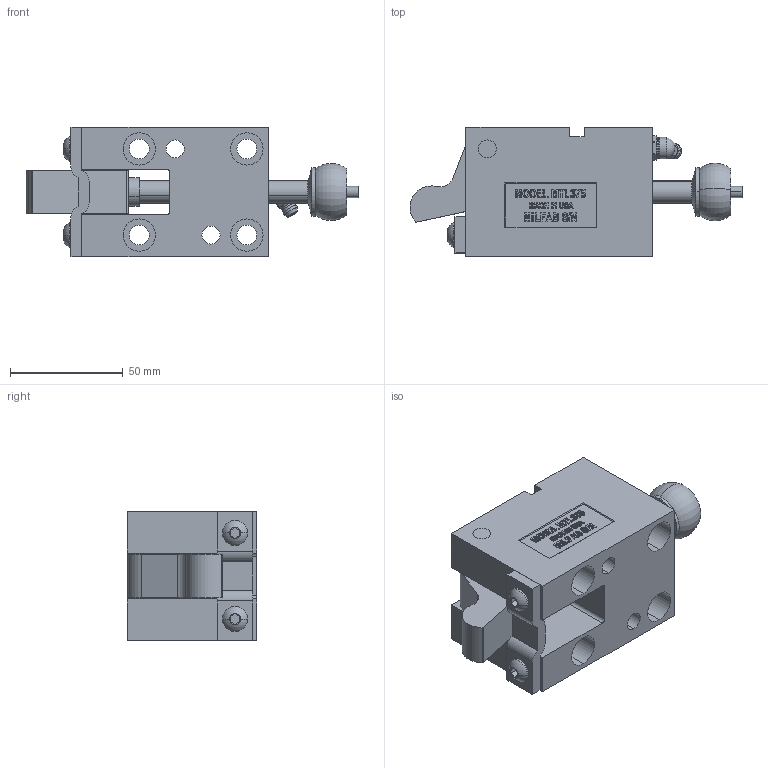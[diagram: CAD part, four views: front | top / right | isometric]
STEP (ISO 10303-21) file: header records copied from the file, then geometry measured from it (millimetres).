
FILE_DESCRIPTION (( 'STEP AP214' ), '1' );
FILE_NAME ('MTL37545-C.STEP', '2014-01-08T19:22:10', ( 'user' ), ( '' ), 'SwSTEP 2.0', 'SolidWorks 2009', '' );
FILE_SCHEMA (( 'AUTOMOTIVE_DESIGN' ));
Length unit declared in the file: inch
Products named in the file (11): ML375-PUNCH; 375-OFFSET TRIGGER; MTL375-BODY; MTL37545-C; 375 STRIPPER CLOSED; 375-WASHER; M-I-375-POINT; GREASE ZERK; 375-I-STRAP; 375 PIVOT PIN; 1-4 SCREW
Assembly tree (11 placements, depth 2):
  MTL37545-C
    375-OFFSET TRIGGER
    375 PIVOT PIN
    MTL375-BODY
    GREASE ZERK
    M-I-375-POINT
    375-WASHER
    375 STRIPPER CLOSED
    1-4 SCREW  x2
    375-I-STRAP
    ML375-PUNCH
Bounding box: 146.96 x 57.15 x 57.15 mm (x, y, z)
Volume: 224642.2 mm3; surface area: 59074.8 mm2
Topology: 11 solids, 11 shells, 595 faces, 1538 edges, 1010 vertices
Faces by surface type: plane 355, cylinder 98, bspline 86, cone 30, torus 22, sphere 4
Entity records: 22917 total; most frequent: CARTESIAN_POINT 8814, ORIENTED_EDGE 2988, DIRECTION 2480, EDGE_CURVE 1494, VECTOR 1002, LINE 1002, VERTEX_POINT 984, AXIS2_PLACEMENT_3D 739
